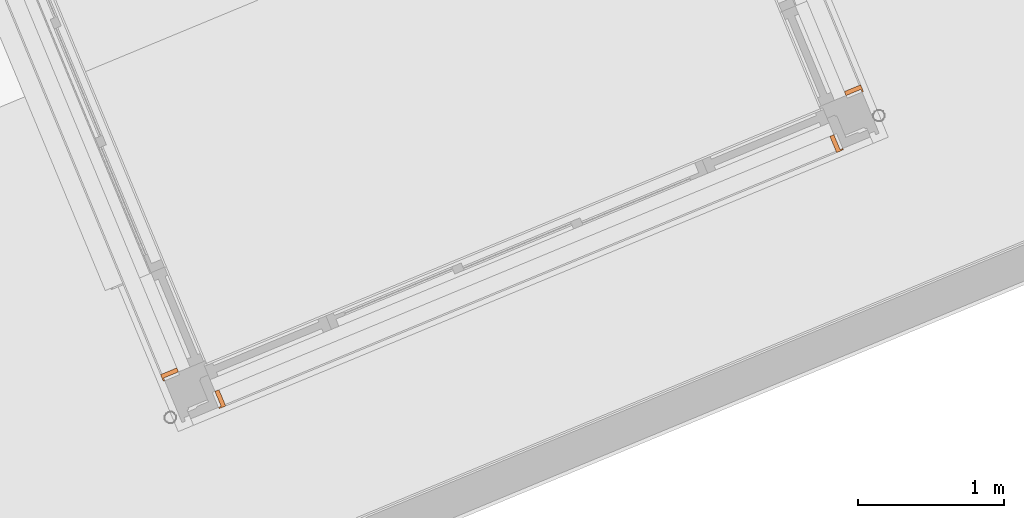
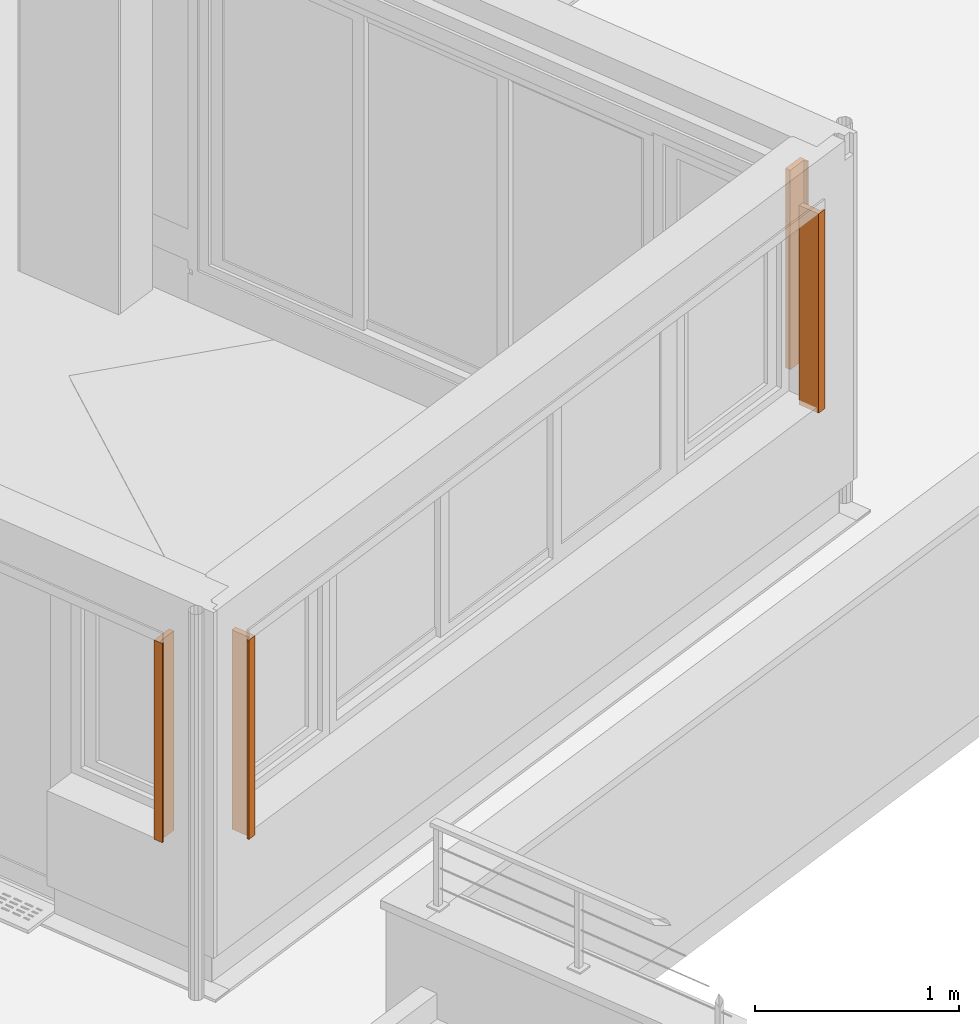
# One storey, part 57 of 62: 4 proxies.
"""IFC2X3 building model written with IfcOpenShell, lengths in metres."""

from ifc_helpers import new_model, entity, si_unit, converted_unit, derived_unit, money_unit, direction, frame, origin_with_axes, place, context, subcontext, project, spatial, faceted_brep, source, transform, mapped, material, type_object, element, save


model = new_model("IFC2X3")

# Units and contexts
model_context = context("Model", 3, precision=1e-05, world=origin_with_axes(), true_north=direction((0.0, 1.0)))
body_context = subcontext(model_context, "Body", "Model", "MODEL_VIEW")
ifc_project = project(units=[si_unit("LENGTHUNIT", "METRE"), si_unit("AREAUNIT", "SQUARE_METRE"), si_unit("VOLUMEUNIT", "CUBIC_METRE"), converted_unit("PLANEANGLEUNIT", "DEGREE", entity("IfcPlaneAngleMeasure", 0.0174532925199), si_unit("PLANEANGLEUNIT", "RADIAN"), dimensions=[0, 0, 0, 0, 0, 0, 0]), si_unit("SOLIDANGLEUNIT", "STERADIAN"), money_unit("EUR"), converted_unit("TIMEUNIT", "Year", entity("IfcTimeMeasure", 31556926.0), si_unit("TIMEUNIT", "SECOND"), dimensions=[0, 0, 1, 0, 0, 0, 0]), si_unit("MASSUNIT", "GRAM", prefix="KILO"), si_unit("THERMODYNAMICTEMPERATUREUNIT", "DEGREE_CELSIUS"), si_unit("LUMINOUSINTENSITYUNIT", "LUMEN"), si_unit("ENERGYUNIT", "JOULE", prefix="MEGA"), derived_unit("THERMALCONDUCTANCEUNIT", [(si_unit("POWERUNIT", "WATT"), 1), (si_unit("LENGTHUNIT", "METRE"), -1), (si_unit("THERMODYNAMICTEMPERATUREUNIT", "KELVIN"), -1)]), derived_unit("SPECIFICHEATCAPACITYUNIT", [(si_unit("ENERGYUNIT", "JOULE"), 1), (si_unit("MASSUNIT", "GRAM", prefix="KILO"), -1), (si_unit("THERMODYNAMICTEMPERATUREUNIT", "KELVIN"), -1)]), derived_unit("MASSDENSITYUNIT", [(si_unit("MASSUNIT", "GRAM", prefix="KILO"), 1), (si_unit("VOLUMEUNIT", "CUBIC_METRE"), -1)])], contexts=[model_context])

# Site, building, storey
site_placement = place(None, origin_with_axes())
site = spatial("IfcSite", under=ifc_project, at=site_placement, Name="Site", CompositionType="ELEMENT")
building_placement = place(site_placement, origin_with_axes())
building = spatial("IfcBuilding", under=site, at=building_placement, Name="Bâtiment", CompositionType="ELEMENT")
storey_placement = place(building_placement, frame((0.0, 0.0, 8.16), z_axis=(0.0, 0.0, 1.0), x_axis=(1.0, 0.0, 0.0)))
storey = spatial("IfcBuildingStorey", under=building, at=storey_placement, Name="R+3", CompositionType="ELEMENT", Elevation=8.16)

# Proxies
ifc_material = material(Name="Volume - Etude")
building_element_proxy_type = type_object("IfcBuildingElementProxyType", Name="Volume - Etude", PredefinedType="NOTDEFINED")
shared_shape_1 = source(origin_with_axes(), body_context, "Body", "Brep", [
    faceted_brep([(-0.0774534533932, -0.0178752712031, -0.780796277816), (-0.0774534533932, -0.0178752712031, 0.409203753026), (-0.07070717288, -0.047106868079, 0.409203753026), (-0.07070717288, -0.047106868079, -0.780796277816), (-0.185133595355, -0.0427264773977, -0.780796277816), (-0.185133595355, -0.0427264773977, 0.409203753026), (-0.189631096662, -0.023238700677, 0.409203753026), (-0.199337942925, -0.0254789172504, 0.409203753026), (-0.188094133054, -0.0741982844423, 0.409203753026), (-0.188094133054, -0.0741982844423, -0.780796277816), (-0.199337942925, -0.0254789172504, -0.780796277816), (-0.189631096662, -0.023238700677, -0.780796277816)], [[[0, 1, 2, 3]], [[0, 4, 5, 1]], [[1, 5, 6, 7, 8, 2]], [[2, 8, 9, 3]], [[3, 9, 10, 11, 4, 0]], [[5, 4, 11, 6]], [[11, 10, 7, 6]], [[8, 7, 10, 9]]]),
])
for number, where, z_axis, x_axis, name in (
    (1, (-15.1198842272, -21.6011129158, 1.80079627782), (0.0, 0.0, 1.0), (-0.165581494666, 0.986196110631, 0.0), "Forme-009"),
    (2, (-10.8397667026, -19.6788362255, 1.80079627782), (0.0, 0.0, 1.0), (-0.986196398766, -0.165579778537, 0.0), "Forme-009"),
):
    element("IfcBuildingElementProxy", number, at=place(storey_placement, frame(where, z_axis=z_axis, x_axis=x_axis)), inside=storey, type_object=building_element_proxy_type, material=ifc_material, Name=name, context=body_context, shape_type="MappedRepresentation", body=[
        mapped(shared_shape_1, transform((0.0, 0.0, 0.0))),
    ])
shared_shape_2 = source(origin_with_axes(), body_context, "Body", "Brep", [
    faceted_brep([(0.0774534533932, -0.0178752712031, -0.780796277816), (0.07070717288, -0.047106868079, -0.780796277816), (0.07070717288, -0.047106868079, 0.409203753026), (0.0774534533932, -0.0178752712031, 0.409203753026), (0.185133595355, -0.0427264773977, -0.780796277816), (0.189631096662, -0.023238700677, -0.780796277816), (0.199337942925, -0.0254789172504, -0.780796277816), (0.188094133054, -0.0741982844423, -0.780796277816), (0.188094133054, -0.0741982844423, 0.409203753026), (0.199337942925, -0.0254789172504, 0.409203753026), (0.189631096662, -0.023238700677, 0.409203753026), (0.185133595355, -0.0427264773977, 0.409203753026)], [[[0, 1, 2, 3]], [[1, 0, 4, 5, 6, 7]], [[2, 1, 7, 8]], [[3, 2, 8, 9, 10, 11]], [[0, 3, 11, 4]], [[11, 10, 5, 4]], [[5, 10, 9, 6]], [[8, 7, 6, 9]]]),
])
for number, where, z_axis, x_axis, name in (
    (3, (-15.2655631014, -21.5108945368, 1.80079627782), (0.0, 0.0, 1.0), (-0.813890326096, -0.581018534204, 0.0), "Forme-009"),
    (4, (-10.8800935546, -19.8426263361, 1.80079627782), (0.0, 0.0, 1.0), (0.581018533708, -0.81389032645, 0.0), "Forme-009"),
):
    element("IfcBuildingElementProxy", number, at=place(storey_placement, frame(where, z_axis=z_axis, x_axis=x_axis)), inside=storey, type_object=building_element_proxy_type, material=ifc_material, Name=name, context=body_context, shape_type="MappedRepresentation", body=[
        mapped(shared_shape_2, transform((0.0, 0.0, 0.0))),
    ])

save(model, "model.ifc")
